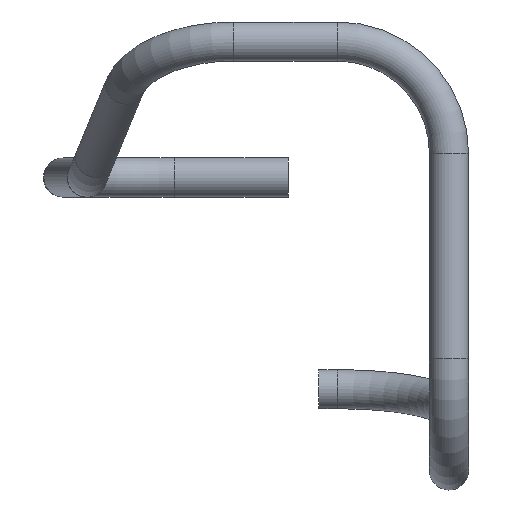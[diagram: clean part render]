
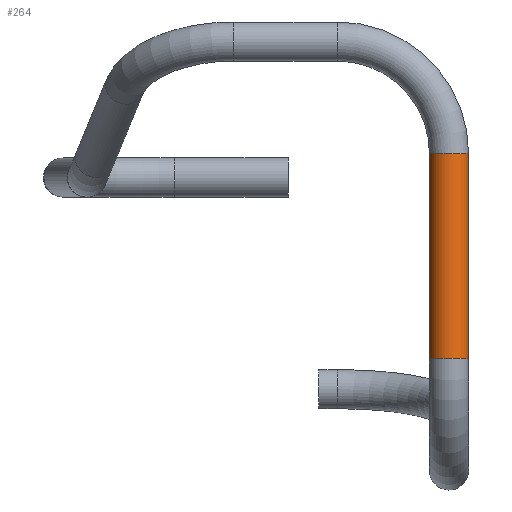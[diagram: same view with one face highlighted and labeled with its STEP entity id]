
A CAD part, front view. The second image highlights one B-rep face of the part: STEP entity #264.
In plain terms, the highlighted cylindrical face has radius 0.525 mm (diameter 1.05 mm), a full revolution.
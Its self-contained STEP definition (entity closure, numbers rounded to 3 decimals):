
#198 = TOROIDAL_SURFACE('',#199,3.,0.525);
#199 = AXIS2_PLACEMENT_3D('',#200,#201,#202);
#200 = CARTESIAN_POINT('',(33.215,-26.04,-16.32));
#201 = DIRECTION('',(-1.,0.,-0.));
#202 = DIRECTION('',(0.,0.2,-0.98));
#215 = VERTEX_POINT('',#216);
#216 = CARTESIAN_POINT('',(33.32,-28.526,
    -16.32));
#237 = EDGE_CURVE('',#215,#215,#238,.T.);
#238 = SURFACE_CURVE('',#239,(#244,#251),.PCURVE_S1.);
#239 = CIRCLE('',#240,0.525);
#240 = AXIS2_PLACEMENT_3D('',#241,#242,#243);
#241 = CARTESIAN_POINT('',(33.215,-29.04,-16.32));
#242 = DIRECTION('',(0.,0.,-1.));
#243 = DIRECTION('',(0.,-1.,0.));
#244 = PCURVE('',#198,#245);
#245 = DEFINITIONAL_REPRESENTATION('',(#246),#250);
#246 = LINE('',#247,#248);
#247 = CARTESIAN_POINT('',(1.772,0.));
#248 = VECTOR('',#249,1.);
#249 = DIRECTION('',(0.,1.));
#250 = ( GEOMETRIC_REPRESENTATION_CONTEXT(2) 
PARAMETRIC_REPRESENTATION_CONTEXT() REPRESENTATION_CONTEXT('2D SPACE',''
  ) );
#251 = PCURVE('',#252,#257);
#252 = CYLINDRICAL_SURFACE('',#253,0.525);
#253 = AXIS2_PLACEMENT_3D('',#254,#255,#256);
#254 = CARTESIAN_POINT('',(33.215,-29.04,-16.32));
#255 = DIRECTION('',(0.,0.,1.));
#256 = DIRECTION('',(0.2,0.98,-0.));
#257 = DEFINITIONAL_REPRESENTATION('',(#258),#261);
#258 = B_SPLINE_CURVE_WITH_KNOTS('',1,(#259,#260),.UNSPECIFIED.,.F.,.F.,
  (2,2),(3.343,9.626),.PIECEWISE_BEZIER_KNOTS.);
#259 = CARTESIAN_POINT('',(6.283,0.));
#260 = CARTESIAN_POINT('',(0.,0.));
#261 = ( GEOMETRIC_REPRESENTATION_CONTEXT(2) 
PARAMETRIC_REPRESENTATION_CONTEXT() REPRESENTATION_CONTEXT('2D SPACE',''
  ) );
#264 = ADVANCED_FACE('',(#265),#252,.T.);
#265 = FACE_BOUND('',#266,.T.);
#266 = EDGE_LOOP('',(#267,#289,#315,#316));
#267 = ORIENTED_EDGE('',*,*,#268,.T.);
#268 = EDGE_CURVE('',#215,#269,#271,.T.);
#269 = VERTEX_POINT('',#270);
#270 = CARTESIAN_POINT('',(33.32,-28.526,-10.8));
#271 = SEAM_CURVE('',#272,(#276,#282),.PCURVE_S1.);
#272 = LINE('',#273,#274);
#273 = CARTESIAN_POINT('',(33.32,-28.526,
    -16.32));
#274 = VECTOR('',#275,1.);
#275 = DIRECTION('',(0.,0.,1.));
#276 = PCURVE('',#252,#277);
#277 = DEFINITIONAL_REPRESENTATION('',(#278),#281);
#278 = B_SPLINE_CURVE_WITH_KNOTS('',1,(#279,#280),.UNSPECIFIED.,.F.,.F.,
  (2,2),(0.,5.52),.PIECEWISE_BEZIER_KNOTS.);
#279 = CARTESIAN_POINT('',(6.283,0.));
#280 = CARTESIAN_POINT('',(6.283,5.52));
#281 = ( GEOMETRIC_REPRESENTATION_CONTEXT(2) 
PARAMETRIC_REPRESENTATION_CONTEXT() REPRESENTATION_CONTEXT('2D SPACE',''
  ) );
#282 = PCURVE('',#252,#283);
#283 = DEFINITIONAL_REPRESENTATION('',(#284),#288);
#284 = LINE('',#285,#286);
#285 = CARTESIAN_POINT('',(0.,0.));
#286 = VECTOR('',#287,1.);
#287 = DIRECTION('',(0.,1.));
#288 = ( GEOMETRIC_REPRESENTATION_CONTEXT(2) 
PARAMETRIC_REPRESENTATION_CONTEXT() REPRESENTATION_CONTEXT('2D SPACE',''
  ) );
#289 = ORIENTED_EDGE('',*,*,#290,.F.);
#290 = EDGE_CURVE('',#269,#269,#291,.T.);
#291 = SURFACE_CURVE('',#292,(#297,#304),.PCURVE_S1.);
#292 = CIRCLE('',#293,0.525);
#293 = AXIS2_PLACEMENT_3D('',#294,#295,#296);
#294 = CARTESIAN_POINT('',(33.215,-29.04,-10.8));
#295 = DIRECTION('',(0.,0.,1.));
#296 = DIRECTION('',(0.2,0.98,-0.));
#297 = PCURVE('',#252,#298);
#298 = DEFINITIONAL_REPRESENTATION('',(#299),#303);
#299 = LINE('',#300,#301);
#300 = CARTESIAN_POINT('',(0.,5.52));
#301 = VECTOR('',#302,1.);
#302 = DIRECTION('',(1.,0.));
#303 = ( GEOMETRIC_REPRESENTATION_CONTEXT(2) 
PARAMETRIC_REPRESENTATION_CONTEXT() REPRESENTATION_CONTEXT('2D SPACE',''
  ) );
#304 = PCURVE('',#305,#310);
#305 = TOROIDAL_SURFACE('',#306,3.,0.525);
#306 = AXIS2_PLACEMENT_3D('',#307,#308,#309);
#307 = CARTESIAN_POINT('',(30.215,-29.04,-10.8));
#308 = DIRECTION('',(0.,-1.,0.));
#309 = DIRECTION('',(1.,0.,0.));
#310 = DEFINITIONAL_REPRESENTATION('',(#311),#314);
#311 = B_SPLINE_CURVE_WITH_KNOTS('',1,(#312,#313),.UNSPECIFIED.,.F.,.F.,
  (2,2),(0.,6.283),.PIECEWISE_BEZIER_KNOTS.);
#312 = CARTESIAN_POINT('',(0.,11.197));
#313 = CARTESIAN_POINT('',(0.,4.914));
#314 = ( GEOMETRIC_REPRESENTATION_CONTEXT(2) 
PARAMETRIC_REPRESENTATION_CONTEXT() REPRESENTATION_CONTEXT('2D SPACE',''
  ) );
#315 = ORIENTED_EDGE('',*,*,#268,.F.);
#316 = ORIENTED_EDGE('',*,*,#237,.F.);
